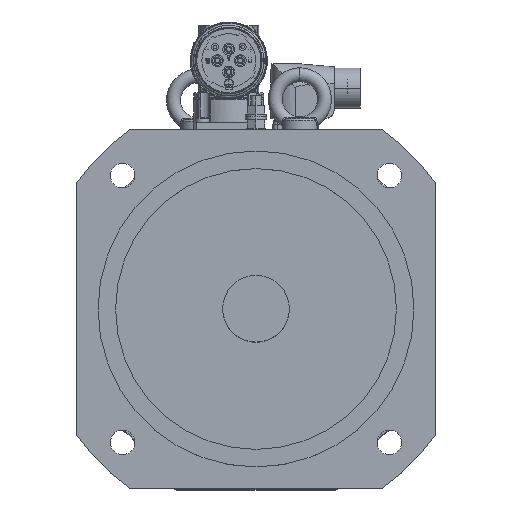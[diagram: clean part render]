
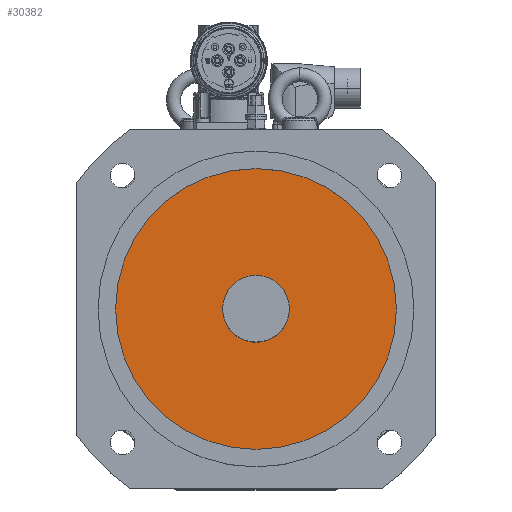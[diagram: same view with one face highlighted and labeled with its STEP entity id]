
A CAD part, top view. The second image highlights one B-rep face of the part: STEP entity #30382.
In plain terms, the highlighted planar face has unit normal (0, 0, 1).
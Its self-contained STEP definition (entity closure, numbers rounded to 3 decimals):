
#2932 = DIRECTION ( 'NONE',  ( 1., 0., 0. ) ) ;
#2933 = DIRECTION ( 'NONE',  ( 0., 0., 1. ) ) ;
#2934 = PLANE ( 'NONE',  #15982 ) ;
#2935 = CARTESIAN_POINT ( 'NONE',  ( 0., 0., 52. ) ) ;
#3804 = CARTESIAN_POINT ( 'NONE',  ( 19., 0., 52. ) ) ;
#4807 = CARTESIAN_POINT ( 'NONE',  ( 80., 0., 52. ) ) ;
#4941 = CARTESIAN_POINT ( 'NONE',  ( -19., 0., 52. ) ) ;
#4951 = CARTESIAN_POINT ( 'NONE',  ( -80., 0., 52. ) ) ;
#5794 = EDGE_CURVE ( 'NONE', #13722, #13356, #24934, .T. ) ;
#5808 = EDGE_CURVE ( 'NONE', #13297, #13460, #24869, .T. ) ;
#5852 = EDGE_CURVE ( 'NONE', #13460, #13297, #28156, .T. ) ;
#5853 = EDGE_CURVE ( 'NONE', #13356, #13722, #28150, .T. ) ;
#12137 = FACE_BOUND ( 'NONE', #25174, .T. ) ;
#12142 = FACE_OUTER_BOUND ( 'NONE', #25178, .T. ) ;
#13297 = VERTEX_POINT ( 'NONE', #4951 ) ;
#13356 = VERTEX_POINT ( 'NONE', #4941 ) ;
#13460 = VERTEX_POINT ( 'NONE', #4807 ) ;
#13722 = VERTEX_POINT ( 'NONE', #3804 ) ;
#15982 = AXIS2_PLACEMENT_3D ( 'NONE', #2935, #2933, #2932 ) ;
#18962 = AXIS2_PLACEMENT_3D ( 'NONE', #21120, #21113, #21111 ) ;
#18982 = AXIS2_PLACEMENT_3D ( 'NONE', #21000, #20990, #20988 ) ;
#19019 = AXIS2_PLACEMENT_3D ( 'NONE', #20723, #20711, #20709 ) ;
#19026 = AXIS2_PLACEMENT_3D ( 'NONE', #20728, #20716, #20715 ) ;
#20709 = DIRECTION ( 'NONE',  ( 1., 0., 0. ) ) ;
#20711 = DIRECTION ( 'NONE',  ( 0., 0., 1. ) ) ;
#20715 = DIRECTION ( 'NONE',  ( 1., 0., 0. ) ) ;
#20716 = DIRECTION ( 'NONE',  ( 0., 0., 1. ) ) ;
#20723 = CARTESIAN_POINT ( 'NONE',  ( 0., 0., 52. ) ) ;
#20728 = CARTESIAN_POINT ( 'NONE',  ( 0., 0., 52. ) ) ;
#20988 = DIRECTION ( 'NONE',  ( 1., 0., 0. ) ) ;
#20990 = DIRECTION ( 'NONE',  ( 0., 0., 1. ) ) ;
#21000 = CARTESIAN_POINT ( 'NONE',  ( 0., 0., 52. ) ) ;
#21111 = DIRECTION ( 'NONE',  ( 1., 0., 0. ) ) ;
#21113 = DIRECTION ( 'NONE',  ( 0., 0., 1. ) ) ;
#21120 = CARTESIAN_POINT ( 'NONE',  ( 0., 0., 52. ) ) ;
#24869 = CIRCLE ( 'NONE', #18982, 80. ) ;
#24934 = CIRCLE ( 'NONE', #18962, 19. ) ;
#25174 = EDGE_LOOP ( 'NONE', ( #31235, #31234 ) ) ;
#25178 = EDGE_LOOP ( 'NONE', ( #31237, #31236 ) ) ;
#28150 = CIRCLE ( 'NONE', #19019, 19. ) ;
#28156 = CIRCLE ( 'NONE', #19026, 80. ) ;
#30382 = ADVANCED_FACE ( 'NONE', ( #12142, #12137 ), #2934, .T. ) ;
#31234 = ORIENTED_EDGE ( 'NONE', *, *, #5794, .F. ) ;
#31235 = ORIENTED_EDGE ( 'NONE', *, *, #5853, .F. ) ;
#31236 = ORIENTED_EDGE ( 'NONE', *, *, #5808, .T. ) ;
#31237 = ORIENTED_EDGE ( 'NONE', *, *, #5852, .T. ) ;
